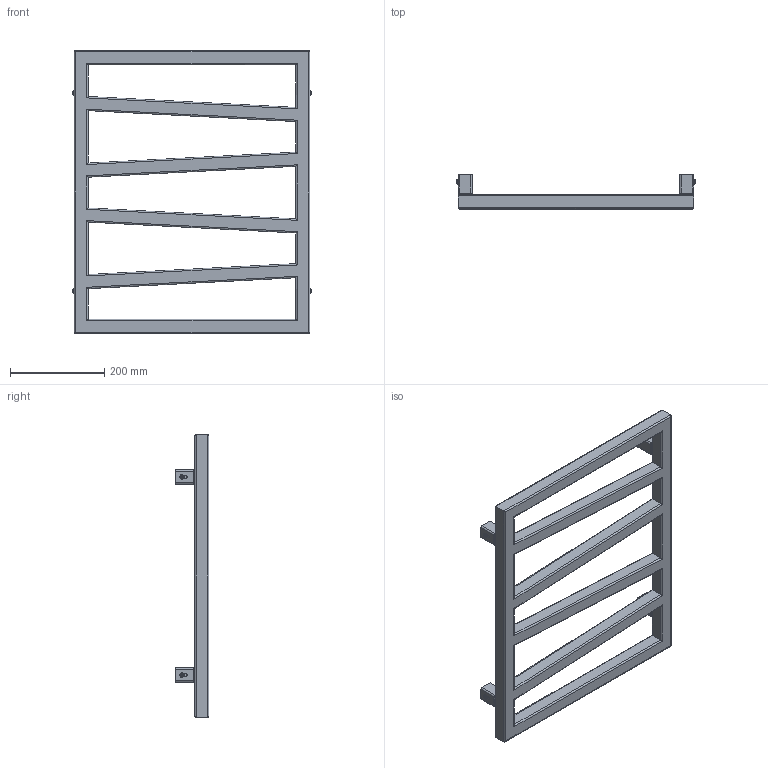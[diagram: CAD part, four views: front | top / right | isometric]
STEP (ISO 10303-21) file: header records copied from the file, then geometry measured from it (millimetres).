
FILE_DESCRIPTION((''),'2;1');
FILE_NAME('Z:\R\G\P\RGP106 - Grzejnik Zigzag\Work\Inventor\Marketing\Katalog 2012\Modele AutoCAD\ZIG-600-500-SX.stp','2012-07-12T15:35:17',('KurKa'),(''),'Autodesk Inventor 2012','Autodesk Inventor 2012','');
FILE_SCHEMA(('AUTOMOTIVE_DESIGN { 1 0 10303 214 1 1 1 1 }'));
Length unit declared in the file: millimetre
Products named in the file (3): ZIG-600-500-SX; MMT42_marketing
Assembly tree (5 placements, depth 2):
  ZIG-600-500-SX
    ZIG-600-500-SX
    MMT42_marketing  x4
Bounding box: 506 x 72 x 600 mm (x, y, z)
Volume: 3560130.2 mm3; surface area: 465427 mm2
Topology: 5 solids, 5 shells, 263 faces, 619 edges, 381 vertices
Faces by surface type: plane 129, cylinder 99, cone 24, torus 11
Full cylindrical faces by diameter (mm): 4.509 x4, 11.445 x1, 12 x4, 18.631 x2
Entity records: 3633 total; most frequent: DIRECTION 642, CARTESIAN_POINT 624, ORIENTED_EDGE 560, EDGE_CURVE 280, AXIS2_PLACEMENT_3D 230, VECTOR 182, LINE 182, VERTEX_POINT 172
